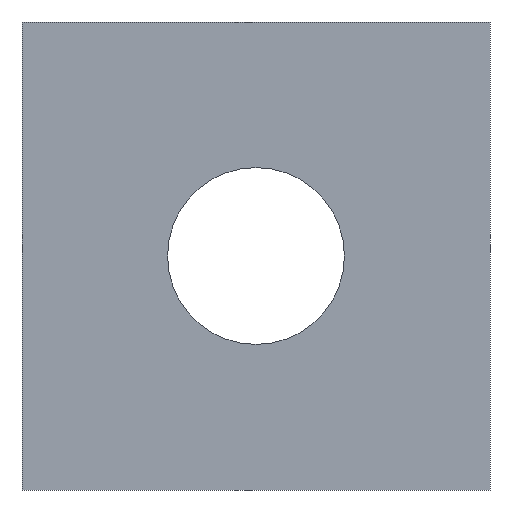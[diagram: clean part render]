
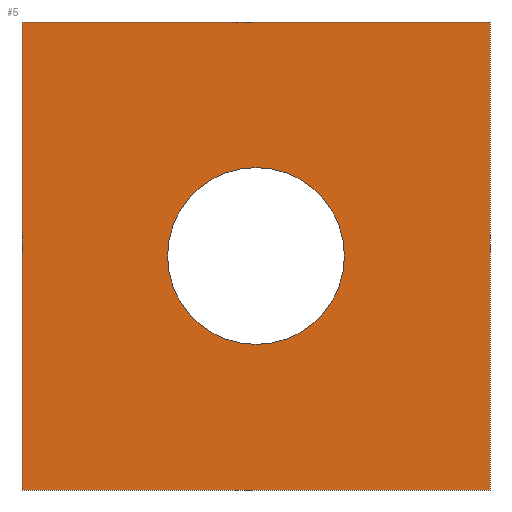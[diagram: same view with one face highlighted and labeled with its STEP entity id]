
A CAD part, front view. The second image highlights one B-rep face of the part: STEP entity #5.
In plain terms, the highlighted planar face has unit normal (0, -1, 0).
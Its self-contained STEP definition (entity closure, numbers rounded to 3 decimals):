
#5 = ADVANCED_FACE ( 'NONE', ( #170, #167 ), #23, .F. ) ;
#11 = EDGE_CURVE ( 'NONE', #219, #126, #174, .T. ) ;
#13 = EDGE_CURVE ( 'NONE', #217, #222, #162, .T. ) ;
#14 = EDGE_CURVE ( 'NONE', #219, #225, #160, .T. ) ;
#23 = PLANE ( 'NONE',  #292 ) ;
#25 = DIRECTION ( 'NONE',  ( 1., 0., 0. ) ) ;
#26 = CARTESIAN_POINT ( 'NONE',  ( -18., -858.048, -2380.312 ) ) ;
#36 = CARTESIAN_POINT ( 'NONE',  ( -18., -858.048, -2380.312 ) ) ;
#47 = CARTESIAN_POINT ( 'NONE',  ( -9., -858.048, -2392.712 ) ) ;
#53 = CARTESIAN_POINT ( 'NONE',  ( -9., -858.048, -2385.912 ) ) ;
#55 = CARTESIAN_POINT ( 'NONE',  ( -18., -858.048, -2380.312 ) ) ;
#56 = CARTESIAN_POINT ( 'NONE',  ( -18., -858.048, -2398.312 ) ) ;
#60 = CARTESIAN_POINT ( 'NONE',  ( 0., -858.048, -2398.312 ) ) ;
#62 = DIRECTION ( 'NONE',  ( 0., 0., 1. ) ) ;
#63 = DIRECTION ( 'NONE',  ( 0., 1., 0. ) ) ;
#64 = CARTESIAN_POINT ( 'NONE',  ( -9., -858.048, -2389.312 ) ) ;
#65 = CARTESIAN_POINT ( 'NONE',  ( -18., -858.048, -2380.312 ) ) ;
#66 = CARTESIAN_POINT ( 'NONE',  ( 0., -858.048, -2380.312 ) ) ;
#68 = DIRECTION ( 'NONE',  ( 0., 0., 1. ) ) ;
#69 = DIRECTION ( 'NONE',  ( 1., 0., 0. ) ) ;
#70 = CARTESIAN_POINT ( 'NONE',  ( -18., -858.048, -2398.312 ) ) ;
#85 = DIRECTION ( 'NONE',  ( 0., 0., 1. ) ) ;
#86 = DIRECTION ( 'NONE',  ( 0., 1., 0. ) ) ;
#126 = VERTEX_POINT ( 'NONE', #60 ) ;
#127 = VERTEX_POINT ( 'NONE', #66 ) ;
#133 = VECTOR ( 'NONE', #259, 1000. ) ;
#136 = LINE ( 'NONE', #261, #133 ) ;
#142 = CIRCLE ( 'NONE', #296, 3.4 ) ;
#145 = VECTOR ( 'NONE', #25, 1000. ) ;
#148 = LINE ( 'NONE', #26, #145 ) ;
#156 = VECTOR ( 'NONE', #68, 1000. ) ;
#160 = LINE ( 'NONE', #65, #156 ) ;
#162 = CIRCLE ( 'NONE', #295, 3.4 ) ;
#165 = VECTOR ( 'NONE', #69, 1000. ) ;
#167 = FACE_OUTER_BOUND ( 'NONE', #212, .T. ) ;
#170 = FACE_BOUND ( 'NONE', #207, .T. ) ;
#174 = LINE ( 'NONE', #70, #165 ) ;
#183 = ORIENTED_EDGE ( 'NONE', *, *, #11, .T. ) ;
#184 = ORIENTED_EDGE ( 'NONE', *, *, #14, .F. ) ;
#185 = ORIENTED_EDGE ( 'NONE', *, *, #283, .F. ) ;
#186 = ORIENTED_EDGE ( 'NONE', *, *, #310, .T. ) ;
#187 = ORIENTED_EDGE ( 'NONE', *, *, #306, .T. ) ;
#189 = ORIENTED_EDGE ( 'NONE', *, *, #13, .T. ) ;
#207 = EDGE_LOOP ( 'NONE', ( #189, #187 ) ) ;
#212 = EDGE_LOOP ( 'NONE', ( #186, #185, #184, #183 ) ) ;
#217 = VERTEX_POINT ( 'NONE', #53 ) ;
#219 = VERTEX_POINT ( 'NONE', #56 ) ;
#222 = VERTEX_POINT ( 'NONE', #47 ) ;
#225 = VERTEX_POINT ( 'NONE', #55 ) ;
#251 = DIRECTION ( 'NONE',  ( 0., 0., 1. ) ) ;
#255 = DIRECTION ( 'NONE',  ( 0., 1., 0. ) ) ;
#256 = CARTESIAN_POINT ( 'NONE',  ( -9., -858.048, -2389.312 ) ) ;
#259 = DIRECTION ( 'NONE',  ( 0., 0., 1. ) ) ;
#261 = CARTESIAN_POINT ( 'NONE',  ( 0., -858.048, -2380.312 ) ) ;
#283 = EDGE_CURVE ( 'NONE', #225, #127, #148, .T. ) ;
#292 = AXIS2_PLACEMENT_3D ( 'NONE', #36, #86, #85 ) ;
#295 = AXIS2_PLACEMENT_3D ( 'NONE', #64, #63, #62 ) ;
#296 = AXIS2_PLACEMENT_3D ( 'NONE', #256, #255, #251 ) ;
#306 = EDGE_CURVE ( 'NONE', #222, #217, #142, .T. ) ;
#310 = EDGE_CURVE ( 'NONE', #126, #127, #136, .T. ) ;
